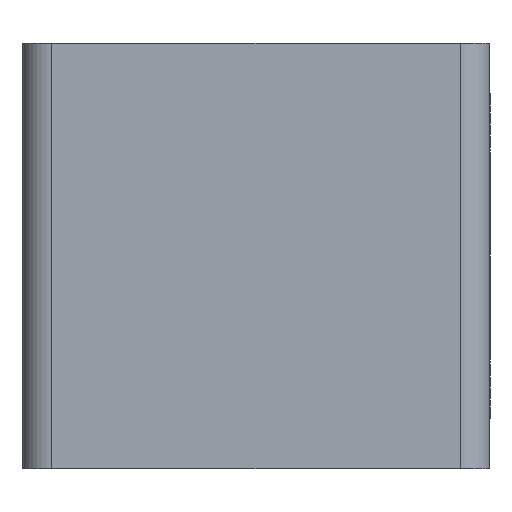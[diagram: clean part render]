
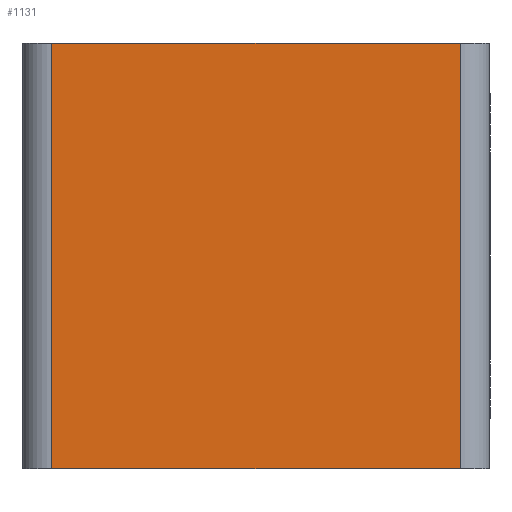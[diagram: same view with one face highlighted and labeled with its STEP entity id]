
A CAD part, left-side view. The second image highlights one B-rep face of the part: STEP entity #1131.
In plain terms, the highlighted planar face has unit normal (-1, 0, 0).
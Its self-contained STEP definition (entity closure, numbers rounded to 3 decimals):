
#1 = VECTOR ( 'NONE', #1426, 1000. ) ;
#79 = CARTESIAN_POINT ( 'NONE',  ( -85., 3.5, 25. ) ) ;
#108 = VERTEX_POINT ( 'NONE', #79 ) ;
#139 = ORIENTED_EDGE ( 'NONE', *, *, #1794, .F. ) ;
#141 = ORIENTED_EDGE ( 'NONE', *, *, #1299, .T. ) ;
#166 = LINE ( 'NONE', #270, #603 ) ;
#196 = CARTESIAN_POINT ( 'NONE',  ( -85., 3.5, -25. ) ) ;
#197 = PLANE ( 'NONE',  #1431 ) ;
#261 = DIRECTION ( 'NONE',  ( 0., -1., 0. ) ) ;
#270 = CARTESIAN_POINT ( 'NONE',  ( -85., 0., 25. ) ) ;
#323 = LINE ( 'NONE', #755, #1248 ) ;
#362 = VECTOR ( 'NONE', #1171, 1000. ) ;
#425 = CARTESIAN_POINT ( 'NONE',  ( -85., 0., 25. ) ) ;
#504 = EDGE_LOOP ( 'NONE', ( #141, #1649, #139, #1074 ) ) ;
#517 = VERTEX_POINT ( 'NONE', #566 ) ;
#566 = CARTESIAN_POINT ( 'NONE',  ( -85., 51.5, -25. ) ) ;
#603 = VECTOR ( 'NONE', #261, 1000. ) ;
#646 = VERTEX_POINT ( 'NONE', #1547 ) ;
#755 = CARTESIAN_POINT ( 'NONE',  ( -85., 3.5, 25. ) ) ;
#801 = FACE_OUTER_BOUND ( 'NONE', #504, .T. ) ;
#861 = DIRECTION ( 'NONE',  ( 1., 0., 0. ) ) ;
#964 = CARTESIAN_POINT ( 'NONE',  ( -85., 0., -25. ) ) ;
#1074 = ORIENTED_EDGE ( 'NONE', *, *, #1945, .T. ) ;
#1127 = LINE ( 'NONE', #964, #1 ) ;
#1131 = ADVANCED_FACE ( 'NONE', ( #801 ), #197, .F. ) ;
#1171 = DIRECTION ( 'NONE',  ( 0., 0., -1. ) ) ;
#1227 = DIRECTION ( 'NONE',  ( 0., 0., -1. ) ) ;
#1248 = VECTOR ( 'NONE', #1604, 1000. ) ;
#1261 = VERTEX_POINT ( 'NONE', #196 ) ;
#1299 = EDGE_CURVE ( 'NONE', #517, #1261, #1127, .T. ) ;
#1382 = LINE ( 'NONE', #1636, #362 ) ;
#1426 = DIRECTION ( 'NONE',  ( 0., -1., 0. ) ) ;
#1431 = AXIS2_PLACEMENT_3D ( 'NONE', #425, #861, #1227 ) ;
#1547 = CARTESIAN_POINT ( 'NONE',  ( -85., 51.5, 25. ) ) ;
#1558 = EDGE_CURVE ( 'NONE', #108, #1261, #323, .T. ) ;
#1604 = DIRECTION ( 'NONE',  ( 0., 0., -1. ) ) ;
#1636 = CARTESIAN_POINT ( 'NONE',  ( -85., 51.5, 25. ) ) ;
#1649 = ORIENTED_EDGE ( 'NONE', *, *, #1558, .F. ) ;
#1794 = EDGE_CURVE ( 'NONE', #646, #108, #166, .T. ) ;
#1945 = EDGE_CURVE ( 'NONE', #646, #517, #1382, .T. ) ;
